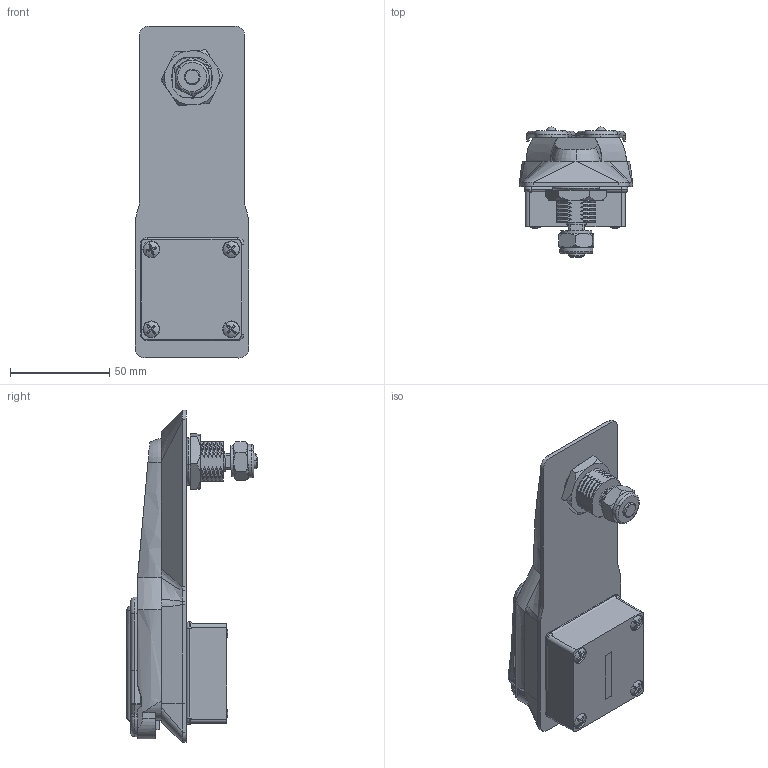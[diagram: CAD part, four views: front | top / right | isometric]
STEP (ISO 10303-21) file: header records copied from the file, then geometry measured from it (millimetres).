
FILE_DESCRIPTION (( 'STEP AP214' ), '1' );
FILE_NAME ('RS800.STEP', '2010-02-26T15:04:04', ( 'Techniczny' ), ( 'RST Roztocze' ), 'SwSTEP 2.0', 'SolidWorks 2010', '' );
FILE_SCHEMA (( 'AUTOMOTIVE_DESIGN' ));
Length unit declared in the file: millimetre
Products named in the file (22): 1B.RS800.02.01.00; O-RING 45 x 3; Nakrêtka M8x5_Default; Podk³adka M8x16_Default; Wkrêt 3,6 x 16; Zapinka RESS 3,2_Default; O-RING 22x2; 1B.RS800.01.05.00_Default; 1B.RS 100.01.06.00; 1B.RS800.01.09.00_Default; O-RING 12ax2; M22x1,5; 1B.RS510.02.02.00; 1B.RS800.01.08.00_Default; 1B.RS800.01.01.00; RS800; 1B.RS100.01.03.00; 1B.RS800.01.02.00; Zapinka RESS 6; 1B.RS800.01.04.00_Default; 1B.RS800.01.07.00_Default; 1B.RS100.01.04.00
Assembly tree (27 placements, depth 2):
  RS800
    O-RING 12ax2
    1B.RS800.01.09.00_Default
    Zapinka RESS 6  x3
    1B.RS800.01.08.00_Default
    Wkrêt 3,6 x 16  x4
    1B.RS100.01.03.00
    1B.RS800.02.01.00
    1B.RS800.01.04.00_Default
    M22x1,5
    O-RING 22x2
    O-RING 45 x 3
    Nakrêtka M8x5_Default
    1B.RS510.02.02.00
    Zapinka RESS 3,2_Default
    1B.RS800.01.07.00_Default
    1B.RS800.01.01.00
    1B.RS 100.01.06.00  x2
    1B.RS800.01.02.00
    1B.RS800.01.05.00_Default
    Podk³adka M8x16_Default
    1B.RS100.01.04.00
Bounding box: 57.04 x 65.55 x 166.93 mm (x, y, z)
Volume: 146228.6 mm3; surface area: 98232.7 mm2
Topology: 27 solids, 27 shells, 1460 faces, 3803 edges, 2389 vertices
Faces by surface type: cylinder 566, plane 543, bspline 157, torus 86, cone 73, sphere 35
Entity records: 44629 total; most frequent: CARTESIAN_POINT 18156, ORIENTED_EDGE 5568, DIRECTION 5043, EDGE_CURVE 2784, AXIS2_PLACEMENT_3D 1835, VERTEX_POINT 1757, VECTOR 1373, LINE 1373
